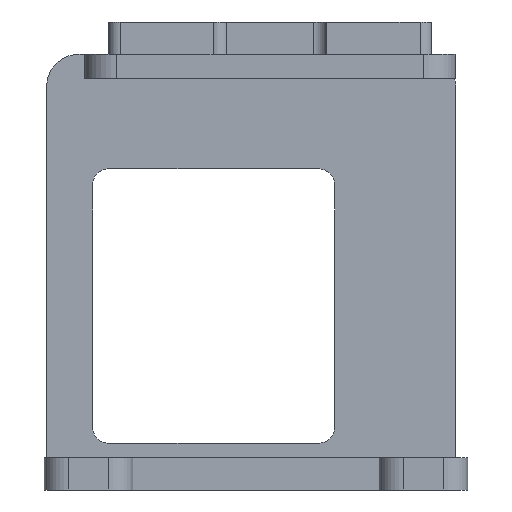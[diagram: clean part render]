
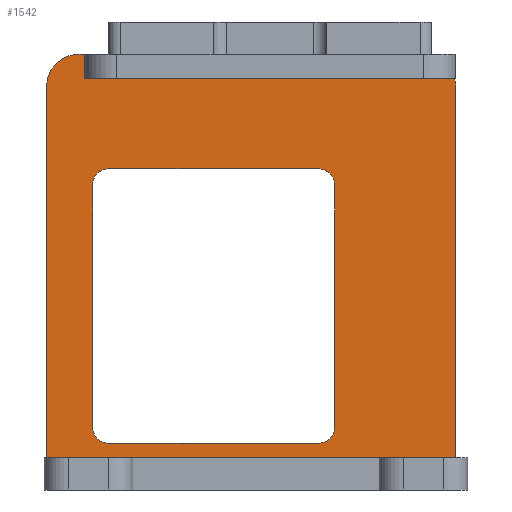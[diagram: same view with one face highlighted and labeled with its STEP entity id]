
A CAD part, left-side view. The second image highlights one B-rep face of the part: STEP entity #1542.
In plain terms, the highlighted planar face has unit normal (-1, 0, 0).
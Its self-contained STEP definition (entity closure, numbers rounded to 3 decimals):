
#754 = VERTEX_POINT('',#755);
#755 = CARTESIAN_POINT('',(-27.5,-24.623,51.));
#761 = EDGE_CURVE('',#754,#762,#764,.T.);
#762 = VERTEX_POINT('',#763);
#763 = CARTESIAN_POINT('',(-27.5,21.25,51.));
#764 = LINE('',#765,#766);
#765 = CARTESIAN_POINT('',(-27.5,-24.75,51.));
#766 = VECTOR('',#767,1.);
#767 = DIRECTION('',(0.,1.,0.));
#931 = VERTEX_POINT('',#932);
#932 = CARTESIAN_POINT('',(-27.5,21.25,54.));
#938 = EDGE_CURVE('',#931,#762,#939,.T.);
#939 = LINE('',#940,#941);
#940 = CARTESIAN_POINT('',(-27.5,21.25,25.5));
#941 = VECTOR('',#942,1.);
#942 = DIRECTION('',(0.,0.,-1.));
#1542 = ADVANCED_FACE('',(#1543,#1595),#1665,.F.);
#1543 = FACE_BOUND('',#1544,.F.);
#1544 = EDGE_LOOP('',(#1545,#1555,#1563,#1571,#1580,#1586,#1587,#1588));
#1545 = ORIENTED_EDGE('',*,*,#1546,.F.);
#1546 = EDGE_CURVE('',#1547,#1549,#1551,.T.);
#1547 = VERTEX_POINT('',#1548);
#1548 = CARTESIAN_POINT('',(-27.5,-24.75,4.));
#1549 = VERTEX_POINT('',#1550);
#1550 = CARTESIAN_POINT('',(-27.5,-24.75,50.));
#1551 = LINE('',#1552,#1553);
#1552 = CARTESIAN_POINT('',(-27.5,-24.75,0.));
#1553 = VECTOR('',#1554,1.);
#1554 = DIRECTION('',(0.,0.,1.));
#1555 = ORIENTED_EDGE('',*,*,#1556,.F.);
#1556 = EDGE_CURVE('',#1557,#1547,#1559,.T.);
#1557 = VERTEX_POINT('',#1558);
#1558 = CARTESIAN_POINT('',(-27.5,25.95,4.));
#1559 = LINE('',#1560,#1561);
#1560 = CARTESIAN_POINT('',(-27.5,-4.75,4.));
#1561 = VECTOR('',#1562,1.);
#1562 = DIRECTION('',(0.,-1.,0.));
#1563 = ORIENTED_EDGE('',*,*,#1564,.T.);
#1564 = EDGE_CURVE('',#1557,#1565,#1567,.T.);
#1565 = VERTEX_POINT('',#1566);
#1566 = CARTESIAN_POINT('',(-27.5,25.95,50.));
#1567 = LINE('',#1568,#1569);
#1568 = CARTESIAN_POINT('',(-27.5,25.95,0.));
#1569 = VECTOR('',#1570,1.);
#1570 = DIRECTION('',(0.,0.,1.));
#1571 = ORIENTED_EDGE('',*,*,#1572,.T.);
#1572 = EDGE_CURVE('',#1565,#1573,#1575,.T.);
#1573 = VERTEX_POINT('',#1574);
#1574 = CARTESIAN_POINT('',(-27.5,21.95,54.));
#1575 = CIRCLE('',#1576,4.);
#1576 = AXIS2_PLACEMENT_3D('',#1577,#1578,#1579);
#1577 = CARTESIAN_POINT('',(-27.5,21.95,50.));
#1578 = DIRECTION('',(1.,0.,-0.));
#1579 = DIRECTION('',(0.,0.,1.));
#1580 = ORIENTED_EDGE('',*,*,#1581,.F.);
#1581 = EDGE_CURVE('',#931,#1573,#1582,.T.);
#1582 = LINE('',#1583,#1584);
#1583 = CARTESIAN_POINT('',(-27.5,-24.75,54.));
#1584 = VECTOR('',#1585,1.);
#1585 = DIRECTION('',(0.,1.,0.));
#1586 = ORIENTED_EDGE('',*,*,#938,.T.);
#1587 = ORIENTED_EDGE('',*,*,#761,.F.);
#1588 = ORIENTED_EDGE('',*,*,#1589,.F.);
#1589 = EDGE_CURVE('',#1549,#754,#1590,.T.);
#1590 = CIRCLE('',#1591,4.);
#1591 = AXIS2_PLACEMENT_3D('',#1592,#1593,#1594);
#1592 = CARTESIAN_POINT('',(-27.5,-20.75,50.));
#1593 = DIRECTION('',(-1.,0.,0.));
#1594 = DIRECTION('',(0.,0.,1.));
#1595 = FACE_BOUND('',#1596,.F.);
#1596 = EDGE_LOOP('',(#1597,#1608,#1616,#1625,#1633,#1642,#1650,#1659));
#1597 = ORIENTED_EDGE('',*,*,#1598,.F.);
#1598 = EDGE_CURVE('',#1599,#1601,#1603,.T.);
#1599 = VERTEX_POINT('',#1600);
#1600 = CARTESIAN_POINT('',(-27.5,-9.75,7.8));
#1601 = VERTEX_POINT('',#1602);
#1602 = CARTESIAN_POINT('',(-27.5,-7.75,5.8));
#1603 = CIRCLE('',#1604,2.);
#1604 = AXIS2_PLACEMENT_3D('',#1605,#1606,#1607);
#1605 = CARTESIAN_POINT('',(-27.5,-7.75,7.8));
#1606 = DIRECTION('',(1.,0.,0.));
#1607 = DIRECTION('',(0.,-1.,0.));
#1608 = ORIENTED_EDGE('',*,*,#1609,.T.);
#1609 = EDGE_CURVE('',#1599,#1610,#1612,.T.);
#1610 = VERTEX_POINT('',#1611);
#1611 = CARTESIAN_POINT('',(-27.5,-9.75,37.8));
#1612 = LINE('',#1613,#1614);
#1613 = CARTESIAN_POINT('',(-27.5,-9.75,2.9));
#1614 = VECTOR('',#1615,1.);
#1615 = DIRECTION('',(0.,0.,1.));
#1616 = ORIENTED_EDGE('',*,*,#1617,.F.);
#1617 = EDGE_CURVE('',#1618,#1610,#1620,.T.);
#1618 = VERTEX_POINT('',#1619);
#1619 = CARTESIAN_POINT('',(-27.5,-7.75,39.8));
#1620 = CIRCLE('',#1621,2.);
#1621 = AXIS2_PLACEMENT_3D('',#1622,#1623,#1624);
#1622 = CARTESIAN_POINT('',(-27.5,-7.75,37.8));
#1623 = DIRECTION('',(1.,0.,0.));
#1624 = DIRECTION('',(0.,-1.,0.));
#1625 = ORIENTED_EDGE('',*,*,#1626,.F.);
#1626 = EDGE_CURVE('',#1627,#1618,#1629,.T.);
#1627 = VERTEX_POINT('',#1628);
#1628 = CARTESIAN_POINT('',(-27.5,18.25,39.8));
#1629 = LINE('',#1630,#1631);
#1630 = CARTESIAN_POINT('',(-27.5,-17.25,39.8));
#1631 = VECTOR('',#1632,1.);
#1632 = DIRECTION('',(0.,-1.,0.));
#1633 = ORIENTED_EDGE('',*,*,#1634,.F.);
#1634 = EDGE_CURVE('',#1635,#1627,#1637,.T.);
#1635 = VERTEX_POINT('',#1636);
#1636 = CARTESIAN_POINT('',(-27.5,20.25,37.8));
#1637 = CIRCLE('',#1638,2.);
#1638 = AXIS2_PLACEMENT_3D('',#1639,#1640,#1641);
#1639 = CARTESIAN_POINT('',(-27.5,18.25,37.8));
#1640 = DIRECTION('',(1.,0.,0.));
#1641 = DIRECTION('',(0.,1.,0.));
#1642 = ORIENTED_EDGE('',*,*,#1643,.F.);
#1643 = EDGE_CURVE('',#1644,#1635,#1646,.T.);
#1644 = VERTEX_POINT('',#1645);
#1645 = CARTESIAN_POINT('',(-27.5,20.25,7.8));
#1646 = LINE('',#1647,#1648);
#1647 = CARTESIAN_POINT('',(-27.5,20.25,2.9));
#1648 = VECTOR('',#1649,1.);
#1649 = DIRECTION('',(0.,0.,1.));
#1650 = ORIENTED_EDGE('',*,*,#1651,.F.);
#1651 = EDGE_CURVE('',#1652,#1644,#1654,.T.);
#1652 = VERTEX_POINT('',#1653);
#1653 = CARTESIAN_POINT('',(-27.5,18.25,5.8));
#1654 = CIRCLE('',#1655,2.);
#1655 = AXIS2_PLACEMENT_3D('',#1656,#1657,#1658);
#1656 = CARTESIAN_POINT('',(-27.5,18.25,7.8));
#1657 = DIRECTION('',(1.,0.,0.));
#1658 = DIRECTION('',(0.,1.,0.));
#1659 = ORIENTED_EDGE('',*,*,#1660,.T.);
#1660 = EDGE_CURVE('',#1652,#1601,#1661,.T.);
#1661 = LINE('',#1662,#1663);
#1662 = CARTESIAN_POINT('',(-27.5,-17.25,5.8));
#1663 = VECTOR('',#1664,1.);
#1664 = DIRECTION('',(0.,-1.,0.));
#1665 = PLANE('',#1666);
#1666 = AXIS2_PLACEMENT_3D('',#1667,#1668,#1669);
#1667 = CARTESIAN_POINT('',(-27.5,-24.75,0.));
#1668 = DIRECTION('',(1.,0.,0.));
#1669 = DIRECTION('',(0.,0.,1.));
